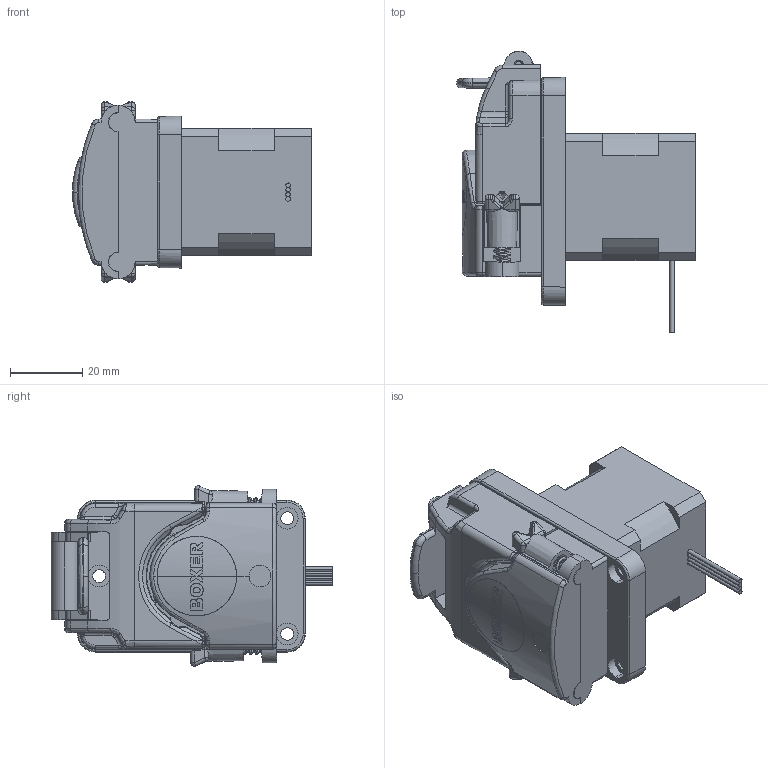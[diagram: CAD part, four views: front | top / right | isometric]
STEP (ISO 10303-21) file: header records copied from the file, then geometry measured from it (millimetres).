
FILE_DESCRIPTION (( 'STEP AP203' ), '1' );
FILE_NAME ('9QX Stepper.STEP', '2017-08-28T11:52:06', ( '' ), ( '' ), 'SwSTEP 2.0', 'SolidWorks 2015', '' );
FILE_SCHEMA (( 'CONFIG_CONTROL_DESIGN' ));
Length unit declared in the file: millimetre
Products named in the file (1): 9QX Stepper
Bounding box: 66.12 x 77.85 x 49.89 mm (x, y, z)
Surface area: 25629.8 mm2 (no closed solid volume)
Topology: 0 solids, 17 shells, 621 faces, 2216 edges, 1542 vertices
Faces by surface type: plane 219, cylinder 201, bspline 113, torus 40, cone 40, sphere 8
Entity records: 35050 total; most frequent: CARTESIAN_POINT 17690, ORIENTED_EDGE 3564, DIRECTION 3287, EDGE_CURVE 2205, VERTEX_POINT 1542, AXIS2_PLACEMENT_3D 1147, LINE 993, VECTOR 993
